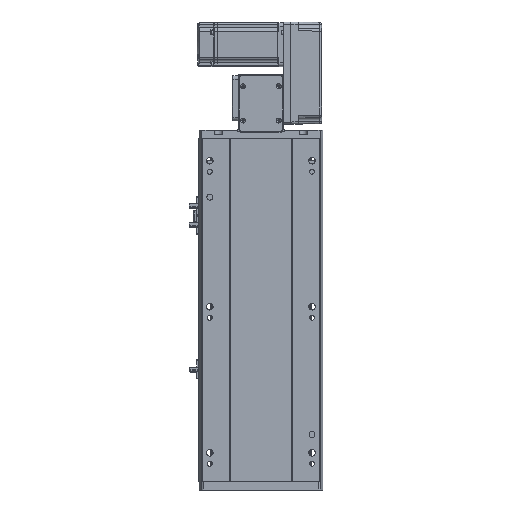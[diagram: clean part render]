
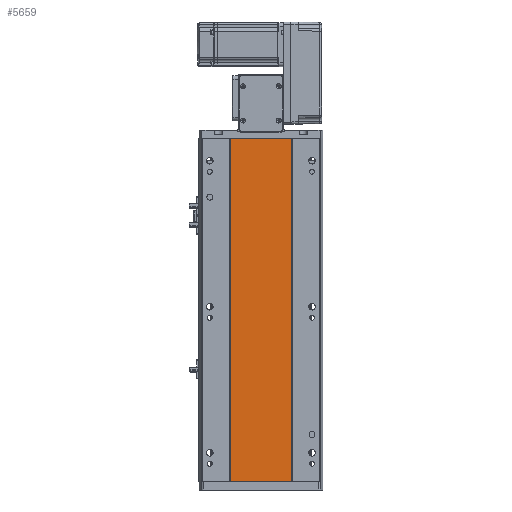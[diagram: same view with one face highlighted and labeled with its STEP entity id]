
A CAD part, front view. The second image highlights one B-rep face of the part: STEP entity #5659.
In plain terms, the highlighted planar face has unit normal (0, -1, 0).
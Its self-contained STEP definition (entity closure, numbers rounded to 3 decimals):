
#762 = EDGE_CURVE ( 'NONE', #53775, #4357, #1052, .T. ) ;
#1052 = LINE ( 'NONE', #37250, #39145 ) ;
#3527 = CARTESIAN_POINT ( 'NONE',  ( 41.793, 0.998, 471. ) ) ;
#3653 = ORIENTED_EDGE ( 'NONE', *, *, #4975, .T. ) ;
#4357 = VERTEX_POINT ( 'NONE', #17176 ) ;
#4975 = EDGE_CURVE ( 'NONE', #34210, #4357, #12672, .T. ) ;
#5659 = ADVANCED_FACE ( 'NONE', ( #51427 ), #26145, .F. ) ;
#6698 = CARTESIAN_POINT ( 'NONE',  ( -41.791, 1., 471. ) ) ;
#9231 = DIRECTION ( 'NONE',  ( 0., 0., -1. ) ) ;
#9364 = CARTESIAN_POINT ( 'NONE',  ( 0., 0.999, 0. ) ) ;
#10956 = AXIS2_PLACEMENT_3D ( 'NONE', #44609, #35012, #58405 ) ;
#12672 = LINE ( 'NONE', #9364, #48602 ) ;
#13069 = DIRECTION ( 'NONE',  ( 0., 0., -1. ) ) ;
#17176 = CARTESIAN_POINT ( 'NONE',  ( 41.793, 0.998, 0. ) ) ;
#17677 = ORIENTED_EDGE ( 'NONE', *, *, #762, .F. ) ;
#19176 = VECTOR ( 'NONE', #37717, 1000. ) ;
#23816 = DIRECTION ( 'NONE',  ( 1., 0., 0. ) ) ;
#23949 = EDGE_CURVE ( 'NONE', #39075, #53775, #39700, .T. ) ;
#24690 = VECTOR ( 'NONE', #13069, 1000. ) ;
#26145 = PLANE ( 'NONE',  #10956 ) ;
#29247 = ORIENTED_EDGE ( 'NONE', *, *, #48095, .T. ) ;
#30926 = ORIENTED_EDGE ( 'NONE', *, *, #23949, .F. ) ;
#31263 = LINE ( 'NONE', #54888, #24690 ) ;
#33899 = EDGE_LOOP ( 'NONE', ( #3653, #17677, #30926, #29247 ) ) ;
#34210 = VERTEX_POINT ( 'NONE', #36186 ) ;
#35012 = DIRECTION ( 'NONE',  ( 0., 1., 0. ) ) ;
#36186 = CARTESIAN_POINT ( 'NONE',  ( -41.791, 1., 0. ) ) ;
#37250 = CARTESIAN_POINT ( 'NONE',  ( 41.793, 0.998, 471. ) ) ;
#37717 = DIRECTION ( 'NONE',  ( 1., 0., 0. ) ) ;
#39075 = VERTEX_POINT ( 'NONE', #6698 ) ;
#39145 = VECTOR ( 'NONE', #9231, 1000. ) ;
#39700 = LINE ( 'NONE', #51088, #19176 ) ;
#44609 = CARTESIAN_POINT ( 'NONE',  ( 0., 0.999, 471. ) ) ;
#48095 = EDGE_CURVE ( 'NONE', #39075, #34210, #31263, .T. ) ;
#48602 = VECTOR ( 'NONE', #23816, 1000. ) ;
#51088 = CARTESIAN_POINT ( 'NONE',  ( 0., 0.999, 471. ) ) ;
#51427 = FACE_OUTER_BOUND ( 'NONE', #33899, .T. ) ;
#53775 = VERTEX_POINT ( 'NONE', #3527 ) ;
#54888 = CARTESIAN_POINT ( 'NONE',  ( -41.791, 1., 471. ) ) ;
#58405 = DIRECTION ( 'NONE',  ( -1., 0., 0. ) ) ;
